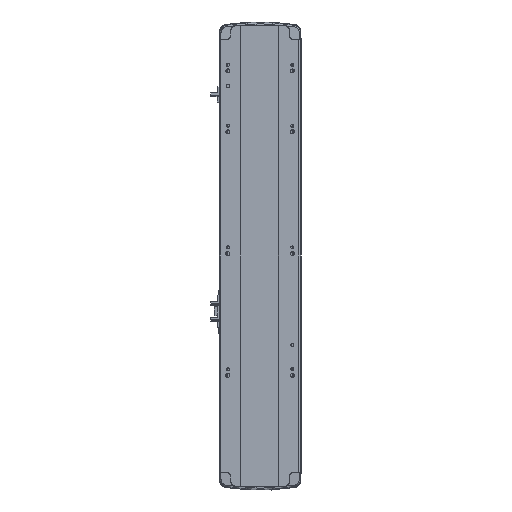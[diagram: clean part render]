
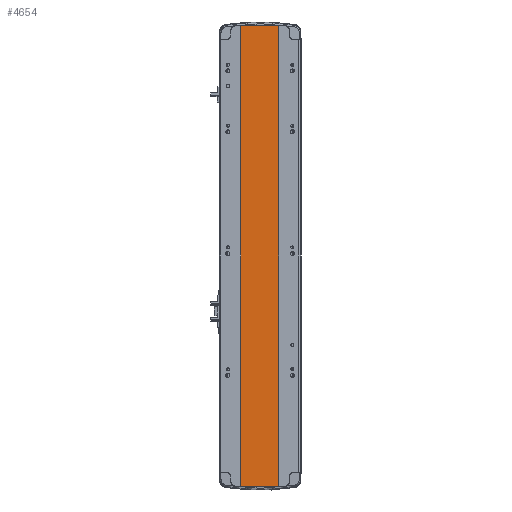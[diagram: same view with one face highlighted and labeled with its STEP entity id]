
A CAD part, front view. The second image highlights one B-rep face of the part: STEP entity #4654.
In plain terms, the highlighted planar face has unit normal (0, -1, 0).
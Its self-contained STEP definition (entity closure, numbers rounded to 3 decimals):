
#2524 = EDGE_CURVE ( 'NONE', #12307, #36873, #15236, .T. ) ;
#2924 = LINE ( 'NONE', #42854, #19729 ) ;
#4585 = CARTESIAN_POINT ( 'NONE',  ( -32., 1., 756. ) ) ;
#4654 = ADVANCED_FACE ( 'NONE', ( #38031 ), #15524, .F. ) ;
#5253 = VECTOR ( 'NONE', #16699, 1000. ) ;
#7270 = DIRECTION ( 'NONE',  ( 0., 0., -1. ) ) ;
#8428 = AXIS2_PLACEMENT_3D ( 'NONE', #4585, #18809, #18964 ) ;
#8663 = CARTESIAN_POINT ( 'NONE',  ( -32., 1., 756. ) ) ;
#9739 = EDGE_LOOP ( 'NONE', ( #43115, #37263, #19999, #10204 ) ) ;
#10020 = EDGE_CURVE ( 'NONE', #12307, #23942, #45559, .T. ) ;
#10194 = VECTOR ( 'NONE', #33458, 1000. ) ;
#10204 = ORIENTED_EDGE ( 'NONE', *, *, #2524, .T. ) ;
#12307 = VERTEX_POINT ( 'NONE', #30578 ) ;
#13525 = CARTESIAN_POINT ( 'NONE',  ( -32., 1., 756. ) ) ;
#15236 = LINE ( 'NONE', #8663, #10194 ) ;
#15524 = PLANE ( 'NONE',  #8428 ) ;
#16699 = DIRECTION ( 'NONE',  ( 1., 0., 0. ) ) ;
#18809 = DIRECTION ( 'NONE',  ( 0., 1., 0. ) ) ;
#18964 = DIRECTION ( 'NONE',  ( -1., 0., 0. ) ) ;
#19729 = VECTOR ( 'NONE', #7270, 1000. ) ;
#19999 = ORIENTED_EDGE ( 'NONE', *, *, #10020, .F. ) ;
#21067 = VERTEX_POINT ( 'NONE', #24047 ) ;
#21155 = EDGE_CURVE ( 'NONE', #23942, #21067, #2924, .T. ) ;
#22058 = CARTESIAN_POINT ( 'NONE',  ( -32., 1., 0. ) ) ;
#23599 = CARTESIAN_POINT ( 'NONE',  ( -32., 1., 0. ) ) ;
#23942 = VERTEX_POINT ( 'NONE', #25587 ) ;
#24047 = CARTESIAN_POINT ( 'NONE',  ( 30., 1., 0. ) ) ;
#25587 = CARTESIAN_POINT ( 'NONE',  ( 30., 1., 756. ) ) ;
#30578 = CARTESIAN_POINT ( 'NONE',  ( -32., 1., 756. ) ) ;
#33458 = DIRECTION ( 'NONE',  ( 0., 0., -1. ) ) ;
#36873 = VERTEX_POINT ( 'NONE', #22058 ) ;
#37095 = EDGE_CURVE ( 'NONE', #36873, #21067, #40446, .T. ) ;
#37263 = ORIENTED_EDGE ( 'NONE', *, *, #21155, .F. ) ;
#38031 = FACE_OUTER_BOUND ( 'NONE', #9739, .T. ) ;
#38884 = DIRECTION ( 'NONE',  ( 1., 0., 0. ) ) ;
#40446 = LINE ( 'NONE', #23599, #5253 ) ;
#42854 = CARTESIAN_POINT ( 'NONE',  ( 30., 1., 756. ) ) ;
#43115 = ORIENTED_EDGE ( 'NONE', *, *, #37095, .T. ) ;
#43875 = VECTOR ( 'NONE', #38884, 1000. ) ;
#45559 = LINE ( 'NONE', #13525, #43875 ) ;
